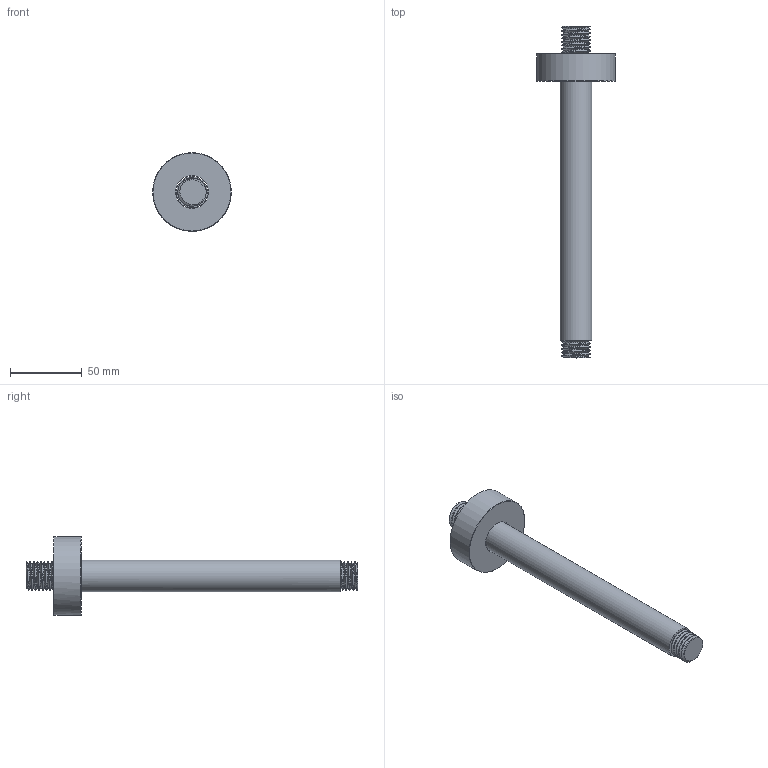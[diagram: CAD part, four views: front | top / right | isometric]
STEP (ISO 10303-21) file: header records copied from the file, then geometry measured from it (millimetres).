
FILE_DESCRIPTION(/* description */ (''),/* implementation_level */ '2;1');
FILE_NAME(/* name */ 'c:\worker\convert-fusion-r09\tmp\job-1\15\output\files\245e2a16-181c-449d-8808-f64d99d2059d\4aba32ff-fb8f-4d3b-9ad4-9529761a1d7a.stp',/* time_stamp */ '2019-12-14T20:02:23+00:00',/* author */ (''),/* organization */ (''),/* preprocessor_version */ 'ST-DEVELOPER v18',/* originating_system */ 'Autodesk Translation Framework v8.12.0.6',/* authorisation */ '');
FILE_SCHEMA (('AUTOMOTIVE_DESIGN { 1 0 10303 214 3 1 1 }'));
Length unit declared in the file: millimetre
Products named in the file (1): !RS22
Bounding box: 55 x 232 x 55 mm (x, y, z)
Volume: 121656.4 mm3; surface area: 26720 mm2
Topology: 3 solids, 3 shells, 47 faces, 125 edges, 85 vertices
Faces by surface type: cylinder 34, plane 7, bspline 5, torus 1
Full cylindrical faces by diameter (mm): 16.938 x12, 19.791 x11, 22 x1, 23 x1, 55 x1
Entity records: 5289 total; most frequent: CARTESIAN_POINT 4208, ORIENTED_EDGE 250, DIRECTION 162, EDGE_CURVE 125, VERTEX_POINT 85, B_SPLINE_CURVE_WITH_KNOTS 71, AXIS2_PLACEMENT_3D 65, EDGE_LOOP 50
